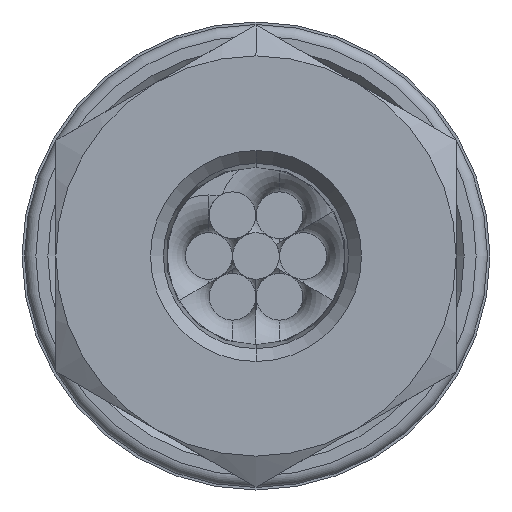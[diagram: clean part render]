
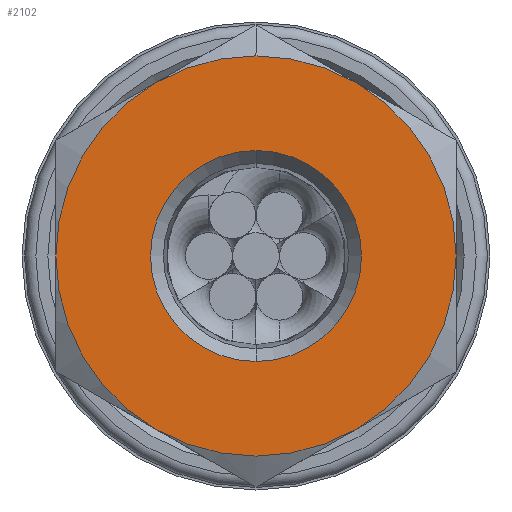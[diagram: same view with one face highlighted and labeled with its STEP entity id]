
A CAD part, front view. The second image highlights one B-rep face of the part: STEP entity #2102.
In plain terms, the highlighted planar face has unit normal (0, -1, 0).
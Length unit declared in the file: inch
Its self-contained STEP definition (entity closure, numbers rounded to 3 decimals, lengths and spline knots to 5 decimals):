
#67 = EDGE_CURVE ( 'NONE', #3806, #3796, #3925, .T. ) ;
#77 = AXIS2_PLACEMENT_3D ( 'NONE', #2508, #1176, #4236 ) ;
#146 = AXIS2_PLACEMENT_3D ( 'NONE', #1976, #2991, #2254 ) ;
#238 = DIRECTION ( 'NONE',  ( 0., 0., -1. ) ) ;
#239 = CARTESIAN_POINT ( 'NONE',  ( 0., -1.005, 0. ) ) ;
#398 = PLANE ( 'NONE',  #3677 ) ;
#448 = DIRECTION ( 'NONE',  ( 0., 0., 1. ) ) ;
#451 = ORIENTED_EDGE ( 'NONE', *, *, #4113, .F. ) ;
#462 = CARTESIAN_POINT ( 'NONE',  ( 0.26565, -1.005, 0.46013 ) ) ;
#478 = VERTEX_POINT ( 'NONE', #3742 ) ;
#576 = CARTESIAN_POINT ( 'NONE',  ( 0., -1.005, 0. ) ) ;
#681 = DIRECTION ( 'NONE',  ( 0., 0., -1. ) ) ;
#749 = VERTEX_POINT ( 'NONE', #462 ) ;
#781 = CARTESIAN_POINT ( 'NONE',  ( 0., -1.005, 0. ) ) ;
#867 = ORIENTED_EDGE ( 'NONE', *, *, #4368, .T. ) ;
#929 = CIRCLE ( 'NONE', #1786, 0.53131 ) ;
#937 = AXIS2_PLACEMENT_3D ( 'NONE', #239, #1992, #1578 ) ;
#976 = EDGE_LOOP ( 'NONE', ( #3473, #1508, #451, #3694, #2735, #2527, #867 ) ) ;
#1018 = CARTESIAN_POINT ( 'NONE',  ( 0., -1.005, 0. ) ) ;
#1101 = EDGE_CURVE ( 'NONE', #3796, #3806, #4447, .T. ) ;
#1108 = DIRECTION ( 'NONE',  ( 0., 0., -1. ) ) ;
#1139 = VERTEX_POINT ( 'NONE', #1874 ) ;
#1176 = DIRECTION ( 'NONE',  ( 0., -1., 0. ) ) ;
#1185 = ORIENTED_EDGE ( 'NONE', *, *, #1101, .F. ) ;
#1205 = CIRCLE ( 'NONE', #1216, 0.53131 ) ;
#1216 = AXIS2_PLACEMENT_3D ( 'NONE', #2433, #3145, #681 ) ;
#1285 = CARTESIAN_POINT ( 'NONE',  ( 0., -1.005, 0.28 ) ) ;
#1344 = DIRECTION ( 'NONE',  ( 0., 0., -1. ) ) ;
#1427 = CARTESIAN_POINT ( 'NONE',  ( 0., -1.005, 0. ) ) ;
#1508 = ORIENTED_EDGE ( 'NONE', *, *, #2374, .F. ) ;
#1578 = DIRECTION ( 'NONE',  ( 0., 0., -1. ) ) ;
#1622 = DIRECTION ( 'NONE',  ( 0., 1., 0. ) ) ;
#1677 = DIRECTION ( 'NONE',  ( 0., 1., 0. ) ) ;
#1697 = FACE_OUTER_BOUND ( 'NONE', #976, .T. ) ;
#1745 = CARTESIAN_POINT ( 'NONE',  ( 0., -1.005, 0.53131 ) ) ;
#1786 = AXIS2_PLACEMENT_3D ( 'NONE', #781, #1677, #1344 ) ;
#1806 = EDGE_CURVE ( 'NONE', #1139, #2439, #1205, .T. ) ;
#1861 = CARTESIAN_POINT ( 'NONE',  ( 0., -1.005, 0. ) ) ;
#1874 = CARTESIAN_POINT ( 'NONE',  ( -0.26565, -1.005, -0.46013 ) ) ;
#1976 = CARTESIAN_POINT ( 'NONE',  ( 0., -1.005, 0. ) ) ;
#1992 = DIRECTION ( 'NONE',  ( 0., 1., 0. ) ) ;
#2044 = DIRECTION ( 'NONE',  ( 0., 0., -1. ) ) ;
#2102 = ADVANCED_FACE ( 'NONE', ( #3098, #1697 ), #398, .F. ) ;
#2177 = CIRCLE ( 'NONE', #146, 0.53131 ) ;
#2201 = DIRECTION ( 'NONE',  ( 0., 0., 1. ) ) ;
#2254 = DIRECTION ( 'NONE',  ( 0., 0., -1. ) ) ;
#2374 = EDGE_CURVE ( 'NONE', #3277, #1139, #3615, .T. ) ;
#2383 = DIRECTION ( 'NONE',  ( 0., 1., 0. ) ) ;
#2401 = DIRECTION ( 'NONE',  ( 0., -1., 0. ) ) ;
#2433 = CARTESIAN_POINT ( 'NONE',  ( 0., -1.005, 0. ) ) ;
#2439 = VERTEX_POINT ( 'NONE', #3774 ) ;
#2461 = CARTESIAN_POINT ( 'NONE',  ( -0.26565, -1.005, 0.46013 ) ) ;
#2508 = CARTESIAN_POINT ( 'NONE',  ( 0., -1.005, 0. ) ) ;
#2527 = ORIENTED_EDGE ( 'NONE', *, *, #2752, .F. ) ;
#2646 = EDGE_CURVE ( 'NONE', #3040, #749, #4332, .T. ) ;
#2735 = ORIENTED_EDGE ( 'NONE', *, *, #2646, .F. ) ;
#2752 = EDGE_CURVE ( 'NONE', #4205, #3040, #929, .T. ) ;
#2757 = CIRCLE ( 'NONE', #77, 0.53131 ) ;
#2825 = CARTESIAN_POINT ( 'NONE',  ( 0., -1.005, 0. ) ) ;
#2831 = EDGE_LOOP ( 'NONE', ( #1185, #3142 ) ) ;
#2965 = CIRCLE ( 'NONE', #3902, 0.53131 ) ;
#2991 = DIRECTION ( 'NONE',  ( 0., 1., 0. ) ) ;
#3040 = VERTEX_POINT ( 'NONE', #1745 ) ;
#3098 = FACE_BOUND ( 'NONE', #2831, .T. ) ;
#3142 = ORIENTED_EDGE ( 'NONE', *, *, #67, .F. ) ;
#3145 = DIRECTION ( 'NONE',  ( 0., 1., 0. ) ) ;
#3258 = DIRECTION ( 'NONE',  ( 0., -1., 0. ) ) ;
#3277 = VERTEX_POINT ( 'NONE', #4260 ) ;
#3326 = CARTESIAN_POINT ( 'NONE',  ( 0., -1.005, -0.28 ) ) ;
#3420 = AXIS2_PLACEMENT_3D ( 'NONE', #1861, #3258, #448 ) ;
#3473 = ORIENTED_EDGE ( 'NONE', *, *, #1806, .F. ) ;
#3527 = AXIS2_PLACEMENT_3D ( 'NONE', #2825, #4187, #1108 ) ;
#3615 = CIRCLE ( 'NONE', #937, 0.53131 ) ;
#3677 = AXIS2_PLACEMENT_3D ( 'NONE', #1427, #2383, #2044 ) ;
#3694 = ORIENTED_EDGE ( 'NONE', *, *, #3803, .F. ) ;
#3742 = CARTESIAN_POINT ( 'NONE',  ( 0.53131, -1.005, 0. ) ) ;
#3774 = CARTESIAN_POINT ( 'NONE',  ( -0.53131, -1.005, 0. ) ) ;
#3796 = VERTEX_POINT ( 'NONE', #1285 ) ;
#3803 = EDGE_CURVE ( 'NONE', #749, #478, #2177, .T. ) ;
#3806 = VERTEX_POINT ( 'NONE', #3326 ) ;
#3866 = AXIS2_PLACEMENT_3D ( 'NONE', #1018, #2401, #2201 ) ;
#3902 = AXIS2_PLACEMENT_3D ( 'NONE', #576, #1622, #238 ) ;
#3925 = CIRCLE ( 'NONE', #3420, 0.28 ) ;
#4113 = EDGE_CURVE ( 'NONE', #478, #3277, #2965, .T. ) ;
#4187 = DIRECTION ( 'NONE',  ( 0., 1., 0. ) ) ;
#4205 = VERTEX_POINT ( 'NONE', #2461 ) ;
#4236 = DIRECTION ( 'NONE',  ( 0., 0., 1. ) ) ;
#4260 = CARTESIAN_POINT ( 'NONE',  ( 0.26565, -1.005, -0.46013 ) ) ;
#4332 = CIRCLE ( 'NONE', #3527, 0.53131 ) ;
#4368 = EDGE_CURVE ( 'NONE', #4205, #2439, #2757, .T. ) ;
#4447 = CIRCLE ( 'NONE', #3866, 0.28 ) ;
